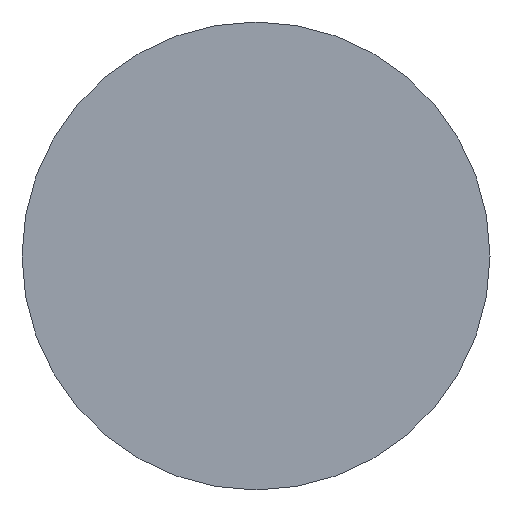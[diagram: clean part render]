
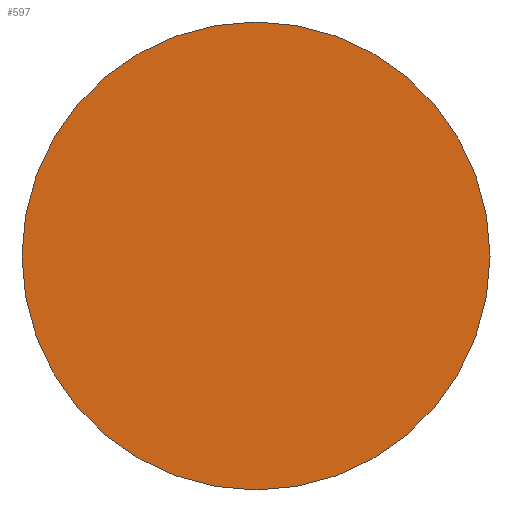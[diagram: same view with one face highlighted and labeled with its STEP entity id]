
A CAD part, front view. The second image highlights one B-rep face of the part: STEP entity #597.
In plain terms, the highlighted planar face has unit normal (0, -1, 0).
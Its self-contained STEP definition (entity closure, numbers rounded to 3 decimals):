
#69 = VERTEX_POINT ( 'NONE', #1860 ) ;
#160 = AXIS2_PLACEMENT_3D ( 'NONE', #1774, #1855, #3156 ) ;
#295 = ORIENTED_EDGE ( 'NONE', *, *, #2513, .T. ) ;
#597 = ADVANCED_FACE ( 'NONE', ( #1528 ), #2468, .T. ) ;
#931 = DIRECTION ( 'NONE',  ( 0., -1., 0. ) ) ;
#1397 = EDGE_CURVE ( 'NONE', #3282, #69, #3851, .T. ) ;
#1443 = DIRECTION ( 'NONE',  ( 1., 0., 0. ) ) ;
#1461 = CARTESIAN_POINT ( 'NONE',  ( 0., -30., 0. ) ) ;
#1528 = FACE_OUTER_BOUND ( 'NONE', #2460, .T. ) ;
#1774 = CARTESIAN_POINT ( 'NONE',  ( 41., -30., 0. ) ) ;
#1855 = DIRECTION ( 'NONE',  ( 0., -1., 0. ) ) ;
#1860 = CARTESIAN_POINT ( 'NONE',  ( 41., -30., 0. ) ) ;
#2288 = CIRCLE ( 'NONE', #2967, 41. ) ;
#2412 = DIRECTION ( 'NONE',  ( 0., -1., 0. ) ) ;
#2447 = ORIENTED_EDGE ( 'NONE', *, *, #1397, .T. ) ;
#2460 = EDGE_LOOP ( 'NONE', ( #295, #2447 ) ) ;
#2468 = PLANE ( 'NONE',  #160 ) ;
#2513 = EDGE_CURVE ( 'NONE', #69, #3282, #2288, .T. ) ;
#2967 = AXIS2_PLACEMENT_3D ( 'NONE', #1461, #2412, #1443 ) ;
#3156 = DIRECTION ( 'NONE',  ( 1., 0., 0. ) ) ;
#3282 = VERTEX_POINT ( 'NONE', #4022 ) ;
#3552 = DIRECTION ( 'NONE',  ( 1., 0., 0. ) ) ;
#3851 = CIRCLE ( 'NONE', #4190, 41. ) ;
#3871 = CARTESIAN_POINT ( 'NONE',  ( 0., -30., 0. ) ) ;
#4022 = CARTESIAN_POINT ( 'NONE',  ( -41., -30., 0. ) ) ;
#4190 = AXIS2_PLACEMENT_3D ( 'NONE', #3871, #931, #3552 ) ;
